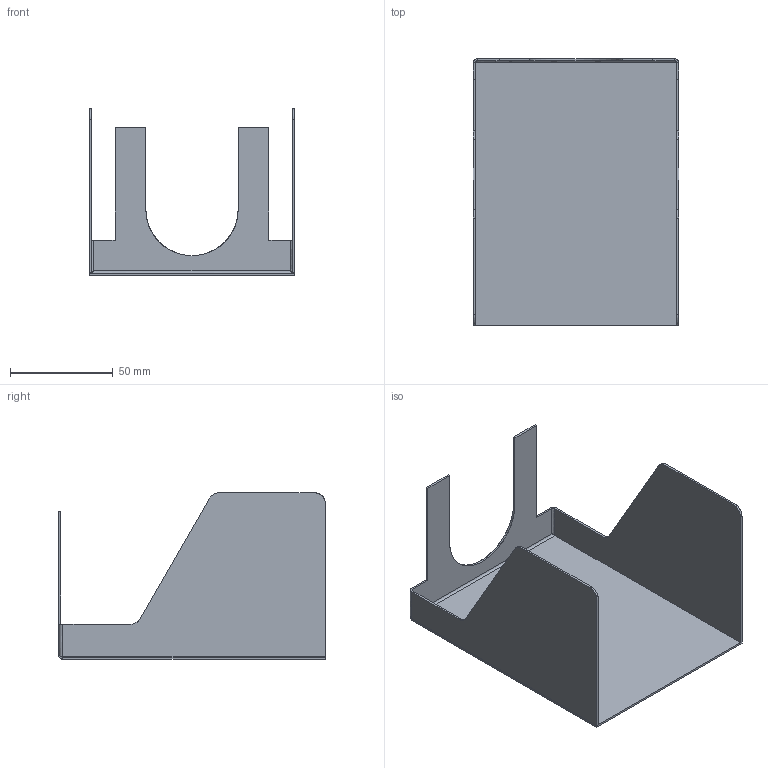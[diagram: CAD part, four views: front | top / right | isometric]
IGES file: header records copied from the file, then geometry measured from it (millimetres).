
Start section: SolidWorks IGES file using analytic representation for surfaces
Global section: file name: C:\Users\User2\Desktop\Lego IGS\Àíòèîñëåïëÿþùèé ýêðàí Lego 2x2.IGS; native system: SolidWorks 2024; preprocessor: SolidWorks 2024; author: User2; date: 251022.124618; units: millimetre
Bounding box: 100 x 130 x 81 mm (x, y, z)
Surface area: 60498.9 mm2 (no closed solid volume)
Topology: 0 solids, 0 shells, 50 faces, 414 edges, 414 vertices
Faces by surface type: bspline 37, revolution 13
